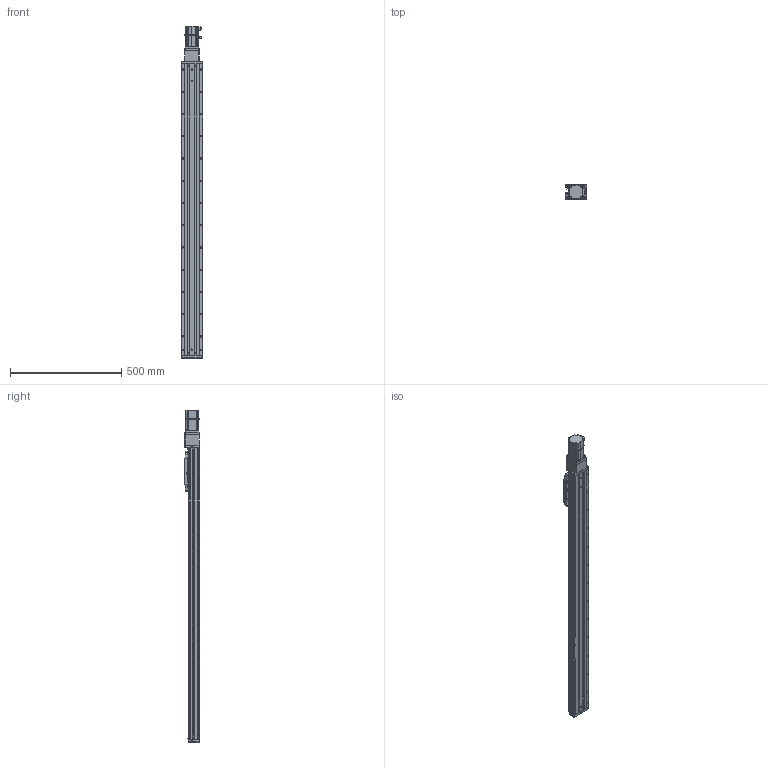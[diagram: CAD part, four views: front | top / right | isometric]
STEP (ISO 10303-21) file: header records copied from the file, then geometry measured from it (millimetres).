
FILE_DESCRIPTION (( 'STEP AP203' ), '1' );
FILE_NAME ('CTHA100-1100-BC-M20-C4L.step', '2022-07-06T08:51:35', ( '微软用户' ), ( '微软中国' ), 'SwSTEP 2.0', 'SolidWorks 2020', '' );
FILE_SCHEMA (( 'CONFIG_CONTROL_DESIGN' ));
Length unit declared in the file: millimetre
Products named in the file (20): GBT70.1 M5℅16; KTHA100-005; CTHA100-002; CTHA60-016; GB¨uT 70.2-M3¡Á5_M3¡Á6; CTHA100-031; _X2_4E0983F1_X0_200W_1; EE_SX911P_R; CTHA86-030; CTHA60-017; CTHA86-013; CTHA100-1100-BC-M20-C4L; CTHA60-021; CTHA86-027; GBT77-2000 M3×3; KTHA100-001_1310; CTHA86-006-1_CTHA86-006-2; GBT 70.1-M3℅6; KTHA100-004; GBT 70.3-M3℅6
Assembly tree (63 placements, depth 2):
  CTHA100-1100-BC-M20-C4L
    KTHA100-001_1310
    KTHA100-004
    KTHA100-005
    GB¨uT 70.2-M3¡Á5_M3¡Á6  x10
    EE_SX911P_R  x3
    CTHA60-017  x3
    CTHA60-021  x2
    GBT77-2000 M3×3  x6
    GBT 70.1-M3℅6  x6
    GBT70.1 M5℅16  x14
    CTHA60-016  x2
    _X2_4E0983F1_X0_200W_1
    CTHA86-013
    CTHA86-027
    CTHA86-006-1_CTHA86-006-2
    GBT 70.3-M3℅6  x6
    CTHA100-002
    CTHA100-031
    CTHA86-030  x2
Bounding box: 98.82 x 68 x 1492.5 mm (x, y, z)
Volume: 5245483.9 mm3; surface area: 876930.4 mm2
Topology: 65 solids, 65 shells, 2759 faces, 6662 edges, 4120 vertices
Faces by surface type: plane 1447, cylinder 721, cone 386, torus 112, bspline 69, sphere 24
Entity records: 49518 total; most frequent: CARTESIAN_POINT 9234, DIRECTION 7811, ORIENTED_EDGE 7596, EDGE_CURVE 3798, AXIS2_PLACEMENT_3D 2633, VECTOR 2545, LINE 2545, VERTEX_POINT 2398
